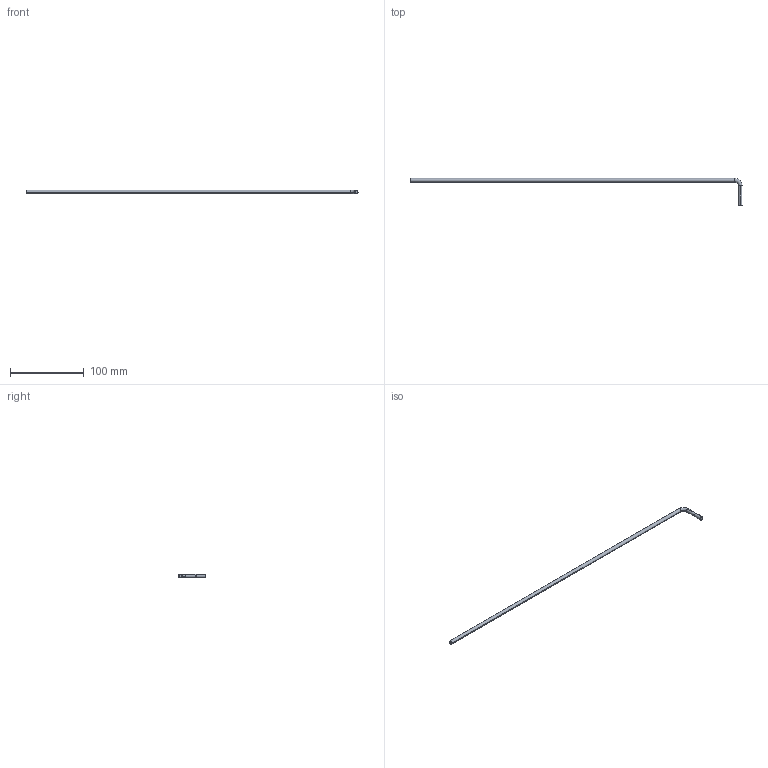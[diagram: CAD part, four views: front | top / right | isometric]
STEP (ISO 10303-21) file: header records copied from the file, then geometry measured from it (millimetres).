
FILE_DESCRIPTION (( 'STEP AP214' ), '1' );
FILE_NAME ('EB-111-450.STEP', '2016-01-23T16:05:13', ( '' ), ( '' ), 'SwSTEP 2.0', 'SolidWorks 2012', '' );
FILE_SCHEMA (( 'AUTOMOTIVE_DESIGN' ));
Length unit declared in the file: millimetre
Products named in the file (1): EB-111-450
Bounding box: 450 x 37 x 5 mm (x, y, z)
Volume: 9381.8 mm3; surface area: 7573.8 mm2
Topology: 1 solids, 1 shells, 14 faces, 30 edges, 18 vertices
Faces by surface type: cylinder 6, cone 4, torus 2, plane 2
Entity records: 480 total; most frequent: CARTESIAN_POINT 131, DIRECTION 72, ORIENTED_EDGE 60, AXIS2_PLACEMENT_3D 31, EDGE_CURVE 30, VERTEX_POINT 18, CIRCLE 16, EDGE_LOOP 16
